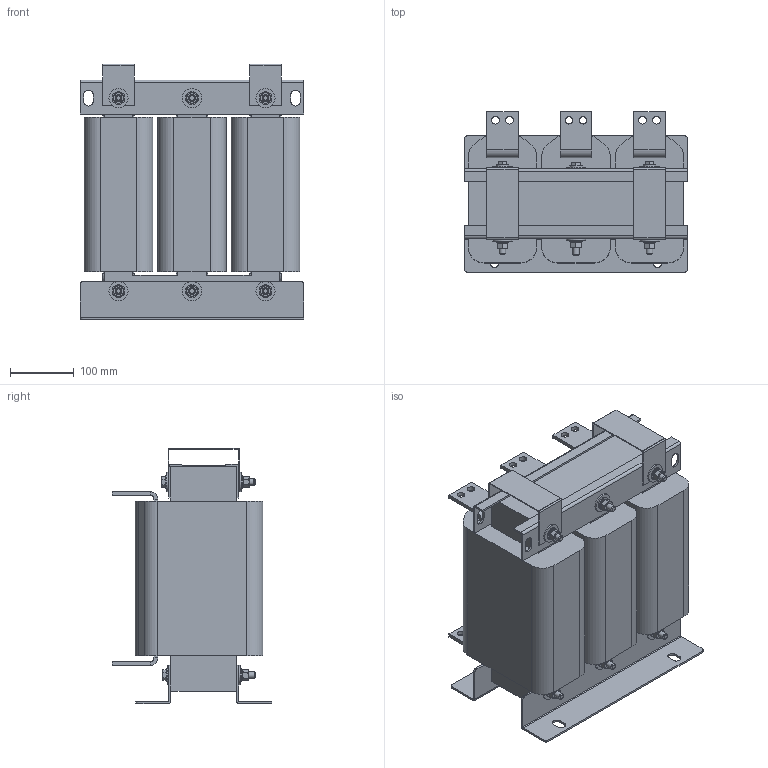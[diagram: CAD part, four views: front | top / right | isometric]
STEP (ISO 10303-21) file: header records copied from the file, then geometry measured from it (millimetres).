
FILE_DESCRIPTION(('STEP AP203'), '1');
FILE_NAME('Ñåòåâîé äðîññåëü _ ISF-375_714-4', '', ('UNSPECIFIED'), ('UNSPECIFIED'), 'C3D Converter', 'C3D Toolkit', '');
FILE_SCHEMA(('CONFIG_CONTROL_DESIGN'));
Length unit declared in the file: millimetre
Products named in the file (17): ISF-375_714-4; DIN 125 (A); DIN 127 (A); DIN 934; ГОСТ 15591-70
Assembly tree (63 placements, depth 3):
  ISF-375_714-4
    ISF-375_714-4
    ISF-375_714-4  x2
    ISF-375_714-4  x3
    ISF-375_714-4  x6
    ISF-375_714-4  x2
    (unnamed)  x12
      (unnamed)
    DIN 125 (A)  x12
      (unnamed)
    DIN 127 (A)  x6
      (unnamed)
    DIN 934  x6
      (unnamed)
    ГОСТ 15591-70  x6
      (unnamed)
    ISF-375_714-4  x2
Bounding box: 350 x 250 x 400 mm (x, y, z)
Volume: 18472698.2 mm3; surface area: 1602067 mm2
Topology: 59 solids, 59 shells, 680 faces, 1454 edges, 898 vertices
Faces by surface type: plane 402, cylinder 176, cone 96, torus 6
Full cylindrical faces by diameter (mm): 8.376 x6, 10 x28, 10.5 x24, 12 x12, 20 x12, 30 x12
Entity records: 8595 total; most frequent: CARTESIAN_POINT 1834, DIRECTION 996, ORIENTED_EDGE 810, EDGE_CURVE 405, AXIS2_PLACEMENT_3D 373, VERTEX_POINT 269, EDGE_LOOP 268, LINE 250
